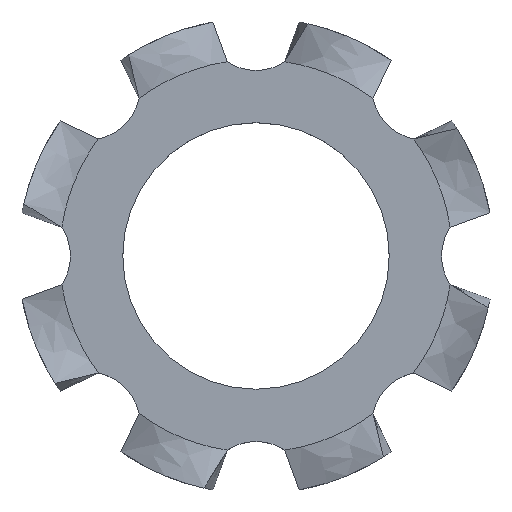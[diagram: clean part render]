
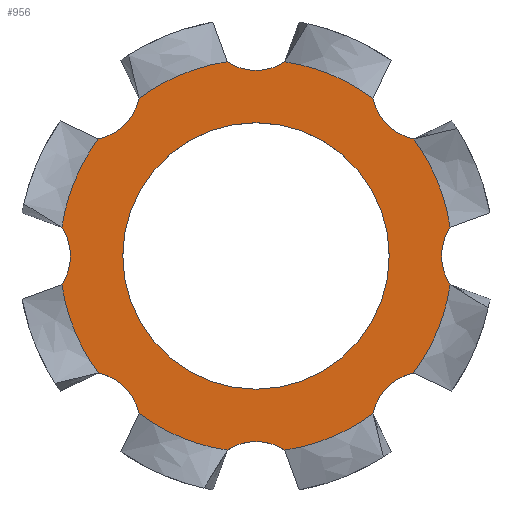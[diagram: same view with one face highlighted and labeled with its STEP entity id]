
A CAD part, top view. The second image highlights one B-rep face of the part: STEP entity #956.
In plain terms, the highlighted planar face has unit normal (0, 0, 1).
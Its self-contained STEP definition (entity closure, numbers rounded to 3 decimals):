
#15=FACE_BOUND('',#300,.T.);
#17=PLANE('',#1039);
#35=CIRCLE('',#996,3.3);
#36=CIRCLE('',#997,3.3);
#37=CIRCLE('',#998,3.3);
#38=CIRCLE('',#999,3.3);
#39=CIRCLE('',#1000,3.3);
#40=CIRCLE('',#1001,3.3);
#41=CIRCLE('',#1002,3.3);
#42=CIRCLE('',#1003,3.3);
#43=CIRCLE('',#1004,3.3);
#44=CIRCLE('',#1005,3.3);
#45=CIRCLE('',#1006,3.3);
#46=CIRCLE('',#1007,3.3);
#47=CIRCLE('',#1008,3.3);
#48=CIRCLE('',#1009,3.3);
#49=CIRCLE('',#1010,3.3);
#50=CIRCLE('',#1011,3.3);
#51=CIRCLE('',#1013,2.24);
#54=CIRCLE('',#1017,0.88);
#56=CIRCLE('',#1020,0.88);
#58=CIRCLE('',#1023,0.88);
#60=CIRCLE('',#1026,0.88);
#62=CIRCLE('',#1029,0.88);
#64=CIRCLE('',#1032,0.88);
#66=CIRCLE('',#1035,0.88);
#68=CIRCLE('',#1038,0.88);
#248=FACE_OUTER_BOUND('',#299,.T.);
#299=EDGE_LOOP('',(#840,#841,#842,#843,#844,#845,#846,#847,#848,#849,#850,
#851,#852,#853,#854,#855,#856,#857,#858,#859,#860,#861,#862,#863));
#300=EDGE_LOOP('',(#864));
#400=VERTEX_POINT('',#1577);
#404=VERTEX_POINT('',#1619);
#408=VERTEX_POINT('',#1661);
#412=VERTEX_POINT('',#1703);
#416=VERTEX_POINT('',#1745);
#420=VERTEX_POINT('',#1787);
#424=VERTEX_POINT('',#1829);
#428=VERTEX_POINT('',#1871);
#431=VERTEX_POINT('',#1911);
#432=VERTEX_POINT('',#1930);
#433=VERTEX_POINT('',#1949);
#434=VERTEX_POINT('',#1968);
#435=VERTEX_POINT('',#1987);
#436=VERTEX_POINT('',#2006);
#437=VERTEX_POINT('',#2025);
#438=VERTEX_POINT('',#2044);
#439=VERTEX_POINT('',#2063);
#440=VERTEX_POINT('',#2082);
#441=VERTEX_POINT('',#2101);
#442=VERTEX_POINT('',#2120);
#443=VERTEX_POINT('',#2139);
#444=VERTEX_POINT('',#2158);
#445=VERTEX_POINT('',#2177);
#446=VERTEX_POINT('',#2196);
#447=VERTEX_POINT('',#2200);
#547=EDGE_CURVE('',#432,#400,#35,.F.);
#548=EDGE_CURVE('',#431,#432,#36,.F.);
#551=EDGE_CURVE('',#434,#404,#37,.F.);
#552=EDGE_CURVE('',#433,#434,#38,.F.);
#555=EDGE_CURVE('',#436,#408,#39,.F.);
#556=EDGE_CURVE('',#435,#436,#40,.F.);
#559=EDGE_CURVE('',#438,#412,#41,.F.);
#560=EDGE_CURVE('',#437,#438,#42,.F.);
#563=EDGE_CURVE('',#440,#416,#43,.F.);
#564=EDGE_CURVE('',#439,#440,#44,.F.);
#567=EDGE_CURVE('',#442,#420,#45,.F.);
#568=EDGE_CURVE('',#441,#442,#46,.F.);
#571=EDGE_CURVE('',#444,#424,#47,.F.);
#572=EDGE_CURVE('',#443,#444,#48,.F.);
#575=EDGE_CURVE('',#446,#428,#49,.F.);
#576=EDGE_CURVE('',#445,#446,#50,.F.);
#577=EDGE_CURVE('',#447,#447,#51,.T.);
#581=EDGE_CURVE('',#404,#431,#54,.T.);
#583=EDGE_CURVE('',#408,#433,#56,.T.);
#585=EDGE_CURVE('',#412,#435,#58,.T.);
#587=EDGE_CURVE('',#416,#437,#60,.T.);
#589=EDGE_CURVE('',#420,#439,#62,.T.);
#591=EDGE_CURVE('',#424,#441,#64,.T.);
#593=EDGE_CURVE('',#428,#443,#66,.T.);
#595=EDGE_CURVE('',#400,#445,#68,.T.);
#840=ORIENTED_EDGE('',*,*,#548,.T.);
#841=ORIENTED_EDGE('',*,*,#547,.T.);
#842=ORIENTED_EDGE('',*,*,#595,.T.);
#843=ORIENTED_EDGE('',*,*,#576,.T.);
#844=ORIENTED_EDGE('',*,*,#575,.T.);
#845=ORIENTED_EDGE('',*,*,#593,.T.);
#846=ORIENTED_EDGE('',*,*,#572,.T.);
#847=ORIENTED_EDGE('',*,*,#571,.T.);
#848=ORIENTED_EDGE('',*,*,#591,.T.);
#849=ORIENTED_EDGE('',*,*,#568,.T.);
#850=ORIENTED_EDGE('',*,*,#567,.T.);
#851=ORIENTED_EDGE('',*,*,#589,.T.);
#852=ORIENTED_EDGE('',*,*,#564,.T.);
#853=ORIENTED_EDGE('',*,*,#563,.T.);
#854=ORIENTED_EDGE('',*,*,#587,.T.);
#855=ORIENTED_EDGE('',*,*,#560,.T.);
#856=ORIENTED_EDGE('',*,*,#559,.T.);
#857=ORIENTED_EDGE('',*,*,#585,.T.);
#858=ORIENTED_EDGE('',*,*,#556,.T.);
#859=ORIENTED_EDGE('',*,*,#555,.T.);
#860=ORIENTED_EDGE('',*,*,#583,.T.);
#861=ORIENTED_EDGE('',*,*,#552,.T.);
#862=ORIENTED_EDGE('',*,*,#551,.T.);
#863=ORIENTED_EDGE('',*,*,#581,.T.);
#864=ORIENTED_EDGE('',*,*,#577,.T.);
#956=ADVANCED_FACE('',(#248,#15),#17,.T.);
#996=AXIS2_PLACEMENT_3D('',#1931,#1125,#1126);
#997=AXIS2_PLACEMENT_3D('',#1932,#1127,#1128);
#998=AXIS2_PLACEMENT_3D('',#1969,#1131,#1132);
#999=AXIS2_PLACEMENT_3D('',#1970,#1133,#1134);
#1000=AXIS2_PLACEMENT_3D('',#2007,#1137,#1138);
#1001=AXIS2_PLACEMENT_3D('',#2008,#1139,#1140);
#1002=AXIS2_PLACEMENT_3D('',#2045,#1143,#1144);
#1003=AXIS2_PLACEMENT_3D('',#2046,#1145,#1146);
#1004=AXIS2_PLACEMENT_3D('',#2083,#1149,#1150);
#1005=AXIS2_PLACEMENT_3D('',#2084,#1151,#1152);
#1006=AXIS2_PLACEMENT_3D('',#2121,#1155,#1156);
#1007=AXIS2_PLACEMENT_3D('',#2122,#1157,#1158);
#1008=AXIS2_PLACEMENT_3D('',#2159,#1161,#1162);
#1009=AXIS2_PLACEMENT_3D('',#2160,#1163,#1164);
#1010=AXIS2_PLACEMENT_3D('',#2197,#1167,#1168);
#1011=AXIS2_PLACEMENT_3D('',#2198,#1169,#1170);
#1013=AXIS2_PLACEMENT_3D('',#2201,#1173,#1174);
#1017=AXIS2_PLACEMENT_3D('',#2207,#1182,#1183);
#1020=AXIS2_PLACEMENT_3D('',#2210,#1188,#1189);
#1023=AXIS2_PLACEMENT_3D('',#2213,#1194,#1195);
#1026=AXIS2_PLACEMENT_3D('',#2216,#1200,#1201);
#1029=AXIS2_PLACEMENT_3D('',#2219,#1206,#1207);
#1032=AXIS2_PLACEMENT_3D('',#2222,#1212,#1213);
#1035=AXIS2_PLACEMENT_3D('',#2225,#1218,#1219);
#1038=AXIS2_PLACEMENT_3D('',#2228,#1224,#1225);
#1039=AXIS2_PLACEMENT_3D('',#2229,#1226,#1227);
#1125=DIRECTION('center_axis',(0.,0.,-1.));
#1126=DIRECTION('ref_axis',(1.,0.,0.));
#1127=DIRECTION('center_axis',(0.,0.,-1.));
#1128=DIRECTION('ref_axis',(1.,0.,0.));
#1131=DIRECTION('center_axis',(0.,0.,-1.));
#1132=DIRECTION('ref_axis',(1.,0.,0.));
#1133=DIRECTION('center_axis',(0.,0.,-1.));
#1134=DIRECTION('ref_axis',(1.,0.,0.));
#1137=DIRECTION('center_axis',(0.,0.,-1.));
#1138=DIRECTION('ref_axis',(1.,0.,0.));
#1139=DIRECTION('center_axis',(0.,0.,-1.));
#1140=DIRECTION('ref_axis',(1.,0.,0.));
#1143=DIRECTION('center_axis',(0.,0.,-1.));
#1144=DIRECTION('ref_axis',(1.,0.,0.));
#1145=DIRECTION('center_axis',(0.,0.,-1.));
#1146=DIRECTION('ref_axis',(1.,0.,0.));
#1149=DIRECTION('center_axis',(0.,0.,-1.));
#1150=DIRECTION('ref_axis',(1.,0.,0.));
#1151=DIRECTION('center_axis',(0.,0.,-1.));
#1152=DIRECTION('ref_axis',(1.,0.,0.));
#1155=DIRECTION('center_axis',(0.,0.,-1.));
#1156=DIRECTION('ref_axis',(1.,0.,0.));
#1157=DIRECTION('center_axis',(0.,0.,-1.));
#1158=DIRECTION('ref_axis',(1.,0.,0.));
#1161=DIRECTION('center_axis',(0.,0.,-1.));
#1162=DIRECTION('ref_axis',(1.,0.,0.));
#1163=DIRECTION('center_axis',(0.,0.,-1.));
#1164=DIRECTION('ref_axis',(1.,0.,0.));
#1167=DIRECTION('center_axis',(0.,0.,-1.));
#1168=DIRECTION('ref_axis',(1.,0.,0.));
#1169=DIRECTION('center_axis',(0.,0.,-1.));
#1170=DIRECTION('ref_axis',(1.,0.,0.));
#1173=DIRECTION('center_axis',(0.,0.,-1.));
#1174=DIRECTION('ref_axis',(1.,0.,0.));
#1182=DIRECTION('center_axis',(0.,0.,-1.));
#1183=DIRECTION('ref_axis',(1.,0.,0.));
#1188=DIRECTION('center_axis',(0.,0.,-1.));
#1189=DIRECTION('ref_axis',(1.,0.,0.));
#1194=DIRECTION('center_axis',(0.,0.,-1.));
#1195=DIRECTION('ref_axis',(1.,0.,0.));
#1200=DIRECTION('center_axis',(0.,0.,-1.));
#1201=DIRECTION('ref_axis',(-0.707,-0.707,0.));
#1206=DIRECTION('center_axis',(0.,0.,-1.));
#1207=DIRECTION('ref_axis',(-1.,0.,0.));
#1212=DIRECTION('center_axis',(0.,0.,-1.));
#1213=DIRECTION('ref_axis',(-0.707,0.707,0.));
#1218=DIRECTION('center_axis',(0.,0.,-1.));
#1219=DIRECTION('ref_axis',(0.,1.,0.));
#1224=DIRECTION('center_axis',(0.,0.,-1.));
#1225=DIRECTION('ref_axis',(0.707,0.707,0.));
#1226=DIRECTION('center_axis',(0.,0.,1.));
#1227=DIRECTION('ref_axis',(1.,0.,0.));
#1577=CARTESIAN_POINT('',(-2.65,-1.967,0.5));
#1619=CARTESIAN_POINT('',(-3.264,0.483,0.5));
#1661=CARTESIAN_POINT('',(-1.967,2.65,0.5));
#1703=CARTESIAN_POINT('',(0.483,3.264,0.5));
#1745=CARTESIAN_POINT('',(2.65,1.967,0.5));
#1787=CARTESIAN_POINT('',(3.264,-0.483,0.5));
#1829=CARTESIAN_POINT('',(1.967,-2.65,0.5));
#1871=CARTESIAN_POINT('',(-0.483,-3.264,0.5));
#1911=CARTESIAN_POINT('',(-3.264,-0.483,0.5));
#1930=CARTESIAN_POINT('',(-3.032,-1.302,0.5));
#1931=CARTESIAN_POINT('Origin',(0.,0.,0.5));
#1932=CARTESIAN_POINT('Origin',(0.,0.,0.5));
#1949=CARTESIAN_POINT('',(-2.65,1.967,0.5));
#1968=CARTESIAN_POINT('',(-3.065,1.223,0.5));
#1969=CARTESIAN_POINT('Origin',(0.,0.,0.5));
#1970=CARTESIAN_POINT('Origin',(0.,0.,0.5));
#1987=CARTESIAN_POINT('',(-0.483,3.264,0.5));
#2006=CARTESIAN_POINT('',(-1.302,3.032,0.5));
#2007=CARTESIAN_POINT('Origin',(0.,0.,0.5));
#2008=CARTESIAN_POINT('Origin',(0.,0.,0.5));
#2025=CARTESIAN_POINT('',(1.967,2.65,0.5));
#2044=CARTESIAN_POINT('',(1.223,3.065,0.5));
#2045=CARTESIAN_POINT('Origin',(0.,0.,0.5));
#2046=CARTESIAN_POINT('Origin',(0.,0.,0.5));
#2063=CARTESIAN_POINT('',(3.264,0.483,0.5));
#2082=CARTESIAN_POINT('',(3.032,1.302,0.5));
#2083=CARTESIAN_POINT('Origin',(0.,0.,0.5));
#2084=CARTESIAN_POINT('Origin',(0.,0.,0.5));
#2101=CARTESIAN_POINT('',(2.65,-1.967,0.5));
#2120=CARTESIAN_POINT('',(3.065,-1.223,0.5));
#2121=CARTESIAN_POINT('Origin',(0.,0.,0.5));
#2122=CARTESIAN_POINT('Origin',(0.,0.,0.5));
#2139=CARTESIAN_POINT('',(0.483,-3.264,0.5));
#2158=CARTESIAN_POINT('',(1.302,-3.032,0.5));
#2159=CARTESIAN_POINT('Origin',(0.,0.,0.5));
#2160=CARTESIAN_POINT('Origin',(0.,0.,0.5));
#2177=CARTESIAN_POINT('',(-1.967,-2.65,0.5));
#2196=CARTESIAN_POINT('',(-1.223,-3.065,0.5));
#2197=CARTESIAN_POINT('Origin',(0.,0.,0.5));
#2198=CARTESIAN_POINT('Origin',(0.,0.,0.5));
#2200=CARTESIAN_POINT('',(-2.24,0.,0.5));
#2201=CARTESIAN_POINT('Origin',(0.,0.,0.5));
#2207=CARTESIAN_POINT('Origin',(-4.,0.,0.5));
#2210=CARTESIAN_POINT('Origin',(-2.828,2.828,0.5));
#2213=CARTESIAN_POINT('Origin',(0.,4.,0.5));
#2216=CARTESIAN_POINT('Origin',(2.828,2.828,0.5));
#2219=CARTESIAN_POINT('Origin',(4.,0.,0.5));
#2222=CARTESIAN_POINT('Origin',(2.828,-2.828,0.5));
#2225=CARTESIAN_POINT('Origin',(0.,-4.,0.5));
#2228=CARTESIAN_POINT('Origin',(-2.828,-2.828,0.5));
#2229=CARTESIAN_POINT('Origin',(0.,0.,0.5));
